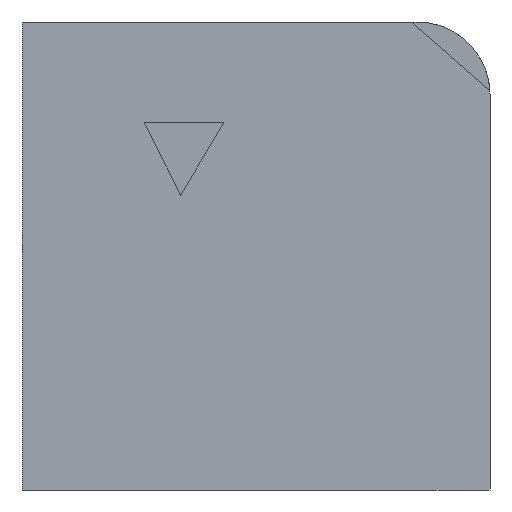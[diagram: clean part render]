
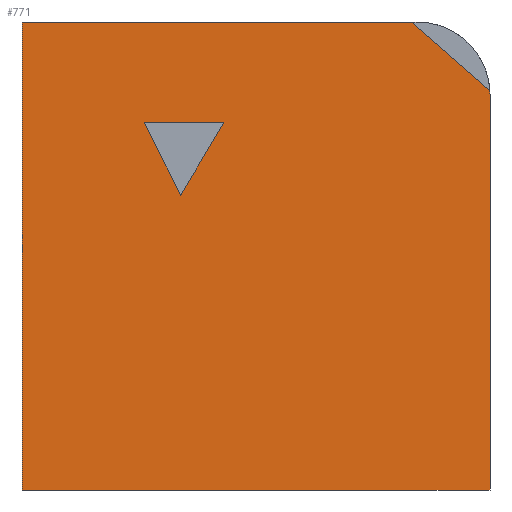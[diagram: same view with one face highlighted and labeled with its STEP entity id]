
A CAD part, front view. The second image highlights one B-rep face of the part: STEP entity #771.
In plain terms, the highlighted planar face has unit normal (0, -1, 0).
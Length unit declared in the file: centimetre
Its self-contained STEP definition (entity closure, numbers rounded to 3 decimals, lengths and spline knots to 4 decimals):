
#3 = VECTOR ( 'NONE', #699, 100. ) ;
#12 = CARTESIAN_POINT ( 'NONE',  ( 431.5302, 0., 784.7504 ) ) ;
#35 = VECTOR ( 'NONE', #748, 100. ) ;
#46 = EDGE_CURVE ( 'NONE', #952, #830, #226, .T. ) ;
#54 = VERTEX_POINT ( 'NONE', #433 ) ;
#69 = CARTESIAN_POINT ( 'NONE',  ( 844.4083, 0., 844.4083 ) ) ;
#101 = ORIENTED_EDGE ( 'NONE', *, *, #707, .T. ) ;
#121 = VECTOR ( 'NONE', #743, 100. ) ;
#123 = DIRECTION ( 'NONE',  ( 0., 1., 0. ) ) ;
#145 = CARTESIAN_POINT ( 'NONE',  ( 832.5448, 0., 1000. ) ) ;
#150 = CARTESIAN_POINT ( 'NONE',  ( 0., 0., 1000. ) ) ;
#163 = EDGE_CURVE ( 'NONE', #844, #621, #758, .T. ) ;
#176 = ORIENTED_EDGE ( 'NONE', *, *, #484, .T. ) ;
#182 = CIRCLE ( 'NONE', #194, 155.5917 ) ;
#189 = EDGE_CURVE ( 'NONE', #888, #844, #829, .T. ) ;
#190 = FACE_BOUND ( 'NONE', #772, .T. ) ;
#194 = AXIS2_PLACEMENT_3D ( 'NONE', #69, #372, #289 ) ;
#213 = ORIENTED_EDGE ( 'NONE', *, *, #793, .F. ) ;
#215 = AXIS2_PLACEMENT_3D ( 'NONE', #579, #123, #807 ) ;
#226 = LINE ( 'NONE', #745, #573 ) ;
#241 = ORIENTED_EDGE ( 'NONE', *, *, #835, .F. ) ;
#267 = CARTESIAN_POINT ( 'NONE',  ( 999.7302, 0., 853.5676 ) ) ;
#270 = LINE ( 'NONE', #575, #324 ) ;
#275 = VECTOR ( 'NONE', #655, 100. ) ;
#289 = DIRECTION ( 'NONE',  ( 0., 0., 1. ) ) ;
#296 = LINE ( 'NONE', #542, #35 ) ;
#301 = DIRECTION ( 'NONE',  ( 0., 0., -1. ) ) ;
#304 = DIRECTION ( 'NONE',  ( 0.514, 0., 0.858 ) ) ;
#324 = VECTOR ( 'NONE', #869, 100. ) ;
#336 = CARTESIAN_POINT ( 'NONE',  ( 261.6315, 0., 784.7504 ) ) ;
#358 = CARTESIAN_POINT ( 'NONE',  ( 0., 0., 0. ) ) ;
#372 = DIRECTION ( 'NONE',  ( 0., -1., 0. ) ) ;
#379 = CARTESIAN_POINT ( 'NONE',  ( 338.7534, 0., 629.9965 ) ) ;
#424 = PLANE ( 'NONE',  #215 ) ;
#430 = CARTESIAN_POINT ( 'NONE',  ( 0., 0., 0. ) ) ;
#433 = CARTESIAN_POINT ( 'NONE',  ( 1000., 0., 844.4083 ) ) ;
#472 = VECTOR ( 'NONE', #678, 100. ) ;
#483 = EDGE_LOOP ( 'NONE', ( #176, #213, #760, #802, #101, #241 ) ) ;
#484 = EDGE_CURVE ( 'NONE', #54, #681, #182, .T. ) ;
#504 = LINE ( 'NONE', #358, #275 ) ;
#542 = CARTESIAN_POINT ( 'NONE',  ( 261.6315, 0., 784.7504 ) ) ;
#555 = CARTESIAN_POINT ( 'NONE',  ( 338.7534, 0., 629.9965 ) ) ;
#573 = VECTOR ( 'NONE', #301, 100. ) ;
#575 = CARTESIAN_POINT ( 'NONE',  ( 1000., 0., 853.3313 ) ) ;
#579 = CARTESIAN_POINT ( 'NONE',  ( 0., 0., 1000. ) ) ;
#587 = ORIENTED_EDGE ( 'NONE', *, *, #915, .F. ) ;
#605 = CARTESIAN_POINT ( 'NONE',  ( 1000., 0., 0. ) ) ;
#609 = ORIENTED_EDGE ( 'NONE', *, *, #189, .F. ) ;
#621 = VERTEX_POINT ( 'NONE', #336 ) ;
#632 = CARTESIAN_POINT ( 'NONE',  ( 431.5302, 0., 784.7504 ) ) ;
#655 = DIRECTION ( 'NONE',  ( 1., 0., 0. ) ) ;
#678 = DIRECTION ( 'NONE',  ( 0., 0., -1. ) ) ;
#681 = VERTEX_POINT ( 'NONE', #267 ) ;
#699 = DIRECTION ( 'NONE',  ( -1., 0., 0. ) ) ;
#707 = EDGE_CURVE ( 'NONE', #830, #893, #504, .T. ) ;
#743 = DIRECTION ( 'NONE',  ( 1., 0., 0. ) ) ;
#745 = CARTESIAN_POINT ( 'NONE',  ( 0., 0., 1000. ) ) ;
#748 = DIRECTION ( 'NONE',  ( 0.446, 0., -0.895 ) ) ;
#752 = CARTESIAN_POINT ( 'NONE',  ( 0., 0., 1000. ) ) ;
#757 = VECTOR ( 'NONE', #304, 100. ) ;
#758 = LINE ( 'NONE', #632, #3 ) ;
#760 = ORIENTED_EDGE ( 'NONE', *, *, #885, .F. ) ;
#771 = ADVANCED_FACE ( 'NONE', ( #190, #789 ), #424, .F. ) ;
#772 = EDGE_LOOP ( 'NONE', ( #587, #936, #609 ) ) ;
#789 = FACE_OUTER_BOUND ( 'NONE', #483, .T. ) ;
#793 = EDGE_CURVE ( 'NONE', #837, #681, #270, .T. ) ;
#802 = ORIENTED_EDGE ( 'NONE', *, *, #46, .T. ) ;
#807 = DIRECTION ( 'NONE',  ( 0., 0., 1. ) ) ;
#814 = CARTESIAN_POINT ( 'NONE',  ( 1000., 0., 1000. ) ) ;
#819 = LINE ( 'NONE', #150, #121 ) ;
#829 = LINE ( 'NONE', #555, #757 ) ;
#830 = VERTEX_POINT ( 'NONE', #430 ) ;
#835 = EDGE_CURVE ( 'NONE', #54, #893, #955, .T. ) ;
#837 = VERTEX_POINT ( 'NONE', #145 ) ;
#844 = VERTEX_POINT ( 'NONE', #12 ) ;
#869 = DIRECTION ( 'NONE',  ( 0.752, 0., -0.659 ) ) ;
#885 = EDGE_CURVE ( 'NONE', #952, #837, #819, .T. ) ;
#888 = VERTEX_POINT ( 'NONE', #379 ) ;
#893 = VERTEX_POINT ( 'NONE', #605 ) ;
#915 = EDGE_CURVE ( 'NONE', #621, #888, #296, .T. ) ;
#936 = ORIENTED_EDGE ( 'NONE', *, *, #163, .F. ) ;
#952 = VERTEX_POINT ( 'NONE', #752 ) ;
#955 = LINE ( 'NONE', #814, #472 ) ;
